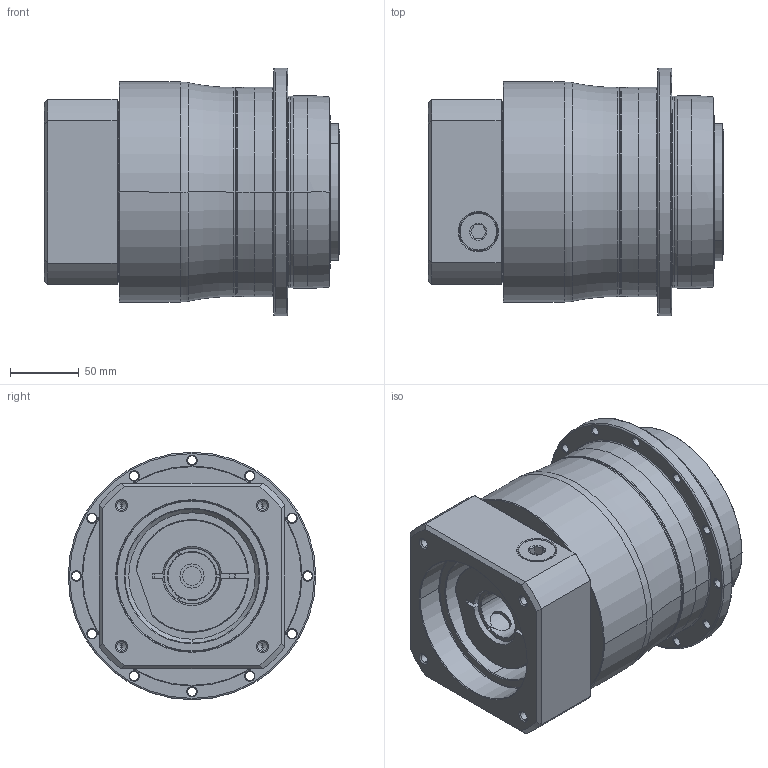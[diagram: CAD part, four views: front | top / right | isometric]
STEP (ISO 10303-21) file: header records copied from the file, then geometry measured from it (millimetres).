
FILE_DESCRIPTION((''),'2;1');
FILE_NAME('AH140_2ST_35-P0409800101_ASM','2016-08-08T',('d01943'),(''),'PRO/ENGINEER BY PARAMETRIC TECHNOLOGY CORPORATION, 2008410','PRO/ENGINEER BY PARAMETRIC TECHNOLOGY CORPORATION, 2008410','');
FILE_SCHEMA(('CONFIG_CONTROL_DESIGN'));
Length unit declared in the file: millimetre
Products named in the file (8): P0278500003; P0359500002; P1317500401; P0409800101; P0503800012; P0912404001; 21711422019; AH140_2ST_35-P0409800101_ASM
Assembly tree (7 placements, depth 2):
  AH140_2ST_35-P0409800101_ASM
    P0278500003
    P0359500002
    P1317500401
    P0409800101
    P0503800012
    P0912404001
    21711422019
Bounding box: 215 x 180 x 180 mm (x, y, z)
Volume: 3258865.7 mm3; surface area: 351076.6 mm2
Topology: 8 solids, 8 shells, 545 faces, 1237 edges, 727 vertices
Faces by surface type: cylinder 208, cone 170, plane 97, torus 56, bspline 14
Entity records: 19790 total; most frequent: CARTESIAN_POINT 7316, DIRECTION 2807, ORIENTED_EDGE 2382, EDGE_CURVE 1191, AXIS2_PLACEMENT_3D 1179, VERTEX_POINT 727, EDGE_LOOP 648, CIRCLE 633
